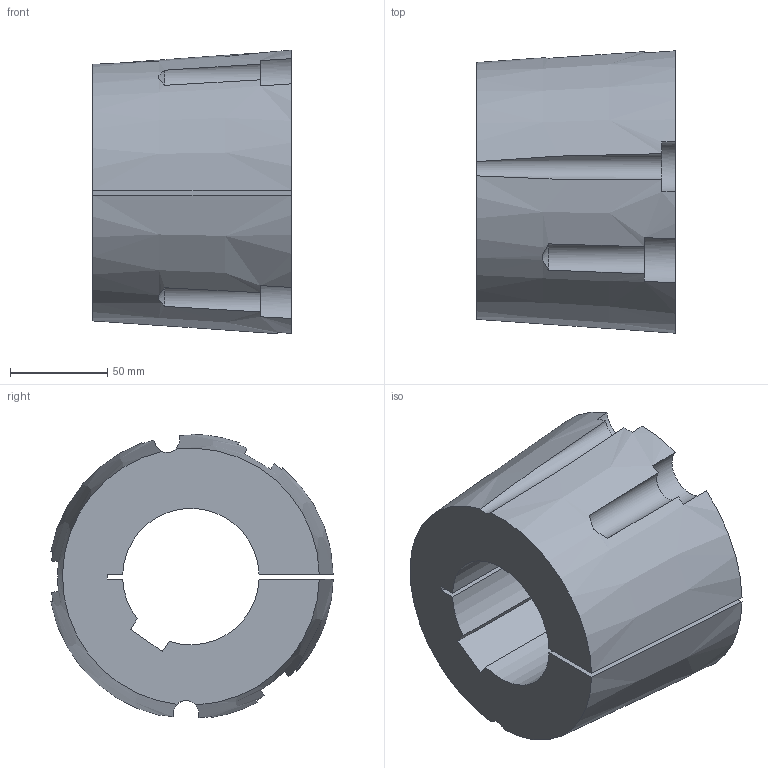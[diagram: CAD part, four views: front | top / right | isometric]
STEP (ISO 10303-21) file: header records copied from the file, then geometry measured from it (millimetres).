
FILE_DESCRIPTION( ( 'STEP AP203' ), '1' );
FILE_NAME( 'D:/export/antriebselemente/spannbuchsen_und_spannsaetze/taper-spannbuchsen_1008_bis_5050/taper-spannbuchsen_62251470Isometric_242.stp', '2018-12-11T11:11:33', ( '' ), ( '' ), ' ', 'PARTsolutions', ' ' );
FILE_SCHEMA( ( 'CONFIG_CONTROL_DESIGN' ) );
Length unit declared in the file: millimetre
Products named in the file (1): _taper-spannbuchsen_62251470
Bounding box: 102 x 144.84 x 145.4 mm (x, y, z)
Volume: 1088960.7 mm3; surface area: 101244.5 mm2
Topology: 1 solids, 1 shells, 34 faces, 96 edges, 64 vertices
Faces by surface type: plane 15, cylinder 13, cone 6
Entity records: 1310 total; most frequent: CARTESIAN_POINT 386, ORIENTED_EDGE 192, DIRECTION 186, EDGE_CURVE 96, AXIS2_PLACEMENT_3D 80, VERTEX_POINT 64, CIRCLE 45, ADVANCED_FACE 34
